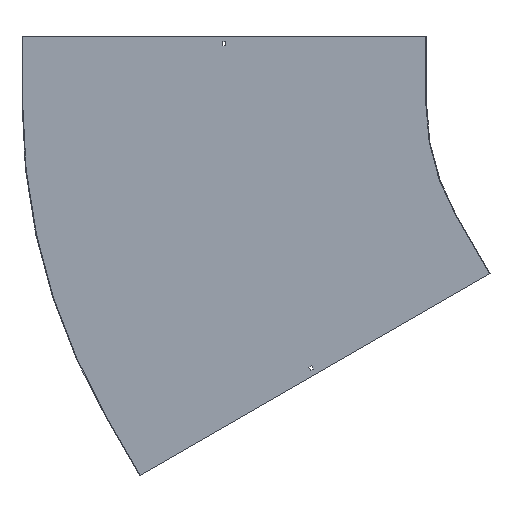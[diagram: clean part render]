
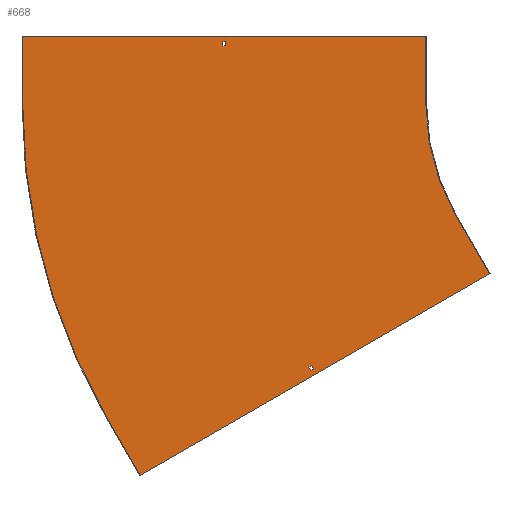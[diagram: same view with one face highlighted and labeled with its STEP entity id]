
A CAD part, front view. The second image highlights one B-rep face of the part: STEP entity #668.
In plain terms, the highlighted planar face has unit normal (0, -1, 0).
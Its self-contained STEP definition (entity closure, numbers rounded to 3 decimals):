
#8 = EDGE_CURVE ( 'NONE', #687, #69, #457, .T. ) ;
#10 = DIRECTION ( 'NONE',  ( 0., -1., 0. ) ) ;
#12 = DIRECTION ( 'NONE',  ( 0.5, 0., -0.866 ) ) ;
#22 = ORIENTED_EDGE ( 'NONE', *, *, #254, .F. ) ;
#27 = VERTEX_POINT ( 'NONE', #506 ) ;
#36 = CARTESIAN_POINT ( 'NONE',  ( 0., -1.5, 0. ) ) ;
#41 = EDGE_CURVE ( 'NONE', #711, #850, #854, .T. ) ;
#45 = LINE ( 'NONE', #643, #68 ) ;
#47 = ORIENTED_EDGE ( 'NONE', *, *, #778, .F. ) ;
#62 = DIRECTION ( 'NONE',  ( -0.5, 0., 0.866 ) ) ;
#68 = VECTOR ( 'NONE', #182, 1000. ) ;
#69 = VERTEX_POINT ( 'NONE', #155 ) ;
#73 = CARTESIAN_POINT ( 'NONE',  ( 0., -1.5, 0. ) ) ;
#91 = CARTESIAN_POINT ( 'NONE',  ( -761.039, -1.5, -588.342 ) ) ;
#102 = FACE_BOUND ( 'NONE', #565, .T. ) ;
#112 = CARTESIAN_POINT ( 'NONE',  ( -1137.436, -1.5, -829.904 ) ) ;
#114 = VECTOR ( 'NONE', #12, 1000. ) ;
#120 = LINE ( 'NONE', #446, #230 ) ;
#127 = VECTOR ( 'NONE', #215, 1000. ) ;
#141 = DIRECTION ( 'NONE',  ( 0., 1., 0. ) ) ;
#142 = VERTEX_POINT ( 'NONE', #818 ) ;
#146 = VECTOR ( 'NONE', #377, 1000. ) ;
#155 = CARTESIAN_POINT ( 'NONE',  ( -1212.436, -1.5, -700. ) ) ;
#161 = CIRCLE ( 'NONE', #212, 500. ) ;
#165 = ORIENTED_EDGE ( 'NONE', *, *, #413, .T. ) ;
#170 = VERTEX_POINT ( 'NONE', #801 ) ;
#173 = ORIENTED_EDGE ( 'NONE', *, *, #8, .F. ) ;
#174 = AXIS2_PLACEMENT_3D ( 'NONE', #36, #835, #237 ) ;
#178 = VECTOR ( 'NONE', #357, 1000. ) ;
#180 = VERTEX_POINT ( 'NONE', #91 ) ;
#182 = DIRECTION ( 'NONE',  ( 0.866, 0., 0.5 ) ) ;
#190 = EDGE_CURVE ( 'NONE', #170, #576, #539, .T. ) ;
#195 = EDGE_CURVE ( 'NONE', #383, #281, #613, .T. ) ;
#202 = CARTESIAN_POINT ( 'NONE',  ( 64.5, -1.5, -111.717 ) ) ;
#212 = AXIS2_PLACEMENT_3D ( 'NONE', #733, #10, #407 ) ;
#213 = EDGE_CURVE ( 'NONE', #180, #857, #672, .T. ) ;
#215 = DIRECTION ( 'NONE',  ( 0.5, 0., -0.866 ) ) ;
#220 = EDGE_CURVE ( 'NONE', #69, #170, #773, .T. ) ;
#230 = VECTOR ( 'NONE', #382, 1000. ) ;
#231 = ORIENTED_EDGE ( 'NONE', *, *, #817, .F. ) ;
#234 = DIRECTION ( 'NONE',  ( -1., 0., 0. ) ) ;
#237 = DIRECTION ( 'NONE',  ( 0., 0., -1. ) ) ;
#248 = CARTESIAN_POINT ( 'NONE',  ( -953.25, -1.5, 129. ) ) ;
#254 = EDGE_CURVE ( 'NONE', #850, #180, #268, .T. ) ;
#265 = CARTESIAN_POINT ( 'NONE',  ( -1137.436, -1.5, -829.904 ) ) ;
#268 = LINE ( 'NONE', #202, #790 ) ;
#281 = VERTEX_POINT ( 'NONE', #549 ) ;
#301 = FACE_BOUND ( 'NONE', #776, .T. ) ;
#304 = CARTESIAN_POINT ( 'NONE',  ( 0., -1.5, 129. ) ) ;
#305 = AXIS2_PLACEMENT_3D ( 'NONE', #73, #141, #676 ) ;
#322 = DIRECTION ( 'NONE',  ( -0.5, 0., 0.866 ) ) ;
#338 = CARTESIAN_POINT ( 'NONE',  ( -825.539, -1.5, -476.625 ) ) ;
#344 = EDGE_CURVE ( 'NONE', #281, #687, #763, .T. ) ;
#347 = LINE ( 'NONE', #603, #788 ) ;
#350 = ORIENTED_EDGE ( 'NONE', *, *, #374, .T. ) ;
#356 = ORIENTED_EDGE ( 'NONE', *, *, #41, .F. ) ;
#357 = DIRECTION ( 'NONE',  ( 0., 0., -1. ) ) ;
#374 = EDGE_CURVE ( 'NONE', #445, #442, #427, .T. ) ;
#377 = DIRECTION ( 'NONE',  ( -0.866, 0., -0.5 ) ) ;
#382 = DIRECTION ( 'NONE',  ( 0., 0., 1. ) ) ;
#383 = VERTEX_POINT ( 'NONE', #694 ) ;
#384 = CARTESIAN_POINT ( 'NONE',  ( -755.41, -1.5, -585.092 ) ) ;
#388 = VECTOR ( 'NONE', #322, 1000. ) ;
#402 = DIRECTION ( 'NONE',  ( 0., 0., 1. ) ) ;
#407 = DIRECTION ( 'NONE',  ( 0., 0., -1. ) ) ;
#409 = CARTESIAN_POINT ( 'NONE',  ( -1400., -1.5, 0. ) ) ;
#412 = CARTESIAN_POINT ( 'NONE',  ( 0., -1.5, 138. ) ) ;
#413 = EDGE_CURVE ( 'NONE', #442, #508, #120, .T. ) ;
#415 = VERTEX_POINT ( 'NONE', #849 ) ;
#427 = LINE ( 'NONE', #304, #689 ) ;
#442 = VERTEX_POINT ( 'NONE', #248 ) ;
#444 = CARTESIAN_POINT ( 'NONE',  ( -750.91, -1.5, -592.887 ) ) ;
#445 = VERTEX_POINT ( 'NONE', #724 ) ;
#446 = CARTESIAN_POINT ( 'NONE',  ( -953.25, -1.5, 0. ) ) ;
#457 = LINE ( 'NONE', #112, #492 ) ;
#462 = LINE ( 'NONE', #536, #652 ) ;
#474 = CARTESIAN_POINT ( 'NONE',  ( -1400., -1.5, 150. ) ) ;
#482 = ORIENTED_EDGE ( 'NONE', *, *, #190, .F. ) ;
#492 = VECTOR ( 'NONE', #62, 1000. ) ;
#505 = CARTESIAN_POINT ( 'NONE',  ( -356.714, -1.5, -379.154 ) ) ;
#506 = CARTESIAN_POINT ( 'NONE',  ( -500., -1.5, 150. ) ) ;
#508 = VERTEX_POINT ( 'NONE', #809 ) ;
#511 = EDGE_CURVE ( 'NONE', #576, #27, #462, .T. ) ;
#520 = CARTESIAN_POINT ( 'NONE',  ( -756.539, -1.5, -596.137 ) ) ;
#536 = CARTESIAN_POINT ( 'NONE',  ( -1401.5, -1.5, 150. ) ) ;
#539 = LINE ( 'NONE', #409, #728 ) ;
#546 = EDGE_CURVE ( 'NONE', #508, #142, #548, .T. ) ;
#548 = LINE ( 'NONE', #412, #797 ) ;
#549 = CARTESIAN_POINT ( 'NONE',  ( -358.013, -1.5, -379.904 ) ) ;
#562 = ORIENTED_EDGE ( 'NONE', *, *, #195, .F. ) ;
#565 = EDGE_LOOP ( 'NONE', ( #356, #231, #822, #22 ) ) ;
#566 = EDGE_CURVE ( 'NONE', #415, #383, #161, .T. ) ;
#576 = VERTEX_POINT ( 'NONE', #474 ) ;
#601 = EDGE_CURVE ( 'NONE', #142, #445, #347, .T. ) ;
#603 = CARTESIAN_POINT ( 'NONE',  ( -946.75, -1.5, 0. ) ) ;
#613 = LINE ( 'NONE', #734, #127 ) ;
#618 = ORIENTED_EDGE ( 'NONE', *, *, #546, .T. ) ;
#642 = ORIENTED_EDGE ( 'NONE', *, *, #220, .F. ) ;
#643 = CARTESIAN_POINT ( 'NONE',  ( 69., -1.5, -119.512 ) ) ;
#652 = VECTOR ( 'NONE', #727, 1000. ) ;
#668 = ADVANCED_FACE ( 'NONE', ( #102, #816, #301 ), #749, .T. ) ;
#672 = LINE ( 'NONE', #338, #114 ) ;
#676 = DIRECTION ( 'NONE',  ( 0., 0., -1. ) ) ;
#687 = VERTEX_POINT ( 'NONE', #265 ) ;
#689 = VECTOR ( 'NONE', #234, 1000. ) ;
#694 = CARTESIAN_POINT ( 'NONE',  ( -433.013, -1.5, -250. ) ) ;
#706 = ORIENTED_EDGE ( 'NONE', *, *, #566, .F. ) ;
#711 = VERTEX_POINT ( 'NONE', #444 ) ;
#713 = ORIENTED_EDGE ( 'NONE', *, *, #601, .T. ) ;
#724 = CARTESIAN_POINT ( 'NONE',  ( -946.75, -1.5, 129. ) ) ;
#727 = DIRECTION ( 'NONE',  ( 1., 0., 0. ) ) ;
#728 = VECTOR ( 'NONE', #402, 1000. ) ;
#733 = CARTESIAN_POINT ( 'NONE',  ( 0., -1.5, 0. ) ) ;
#734 = CARTESIAN_POINT ( 'NONE',  ( -433.013, -1.5, -250. ) ) ;
#749 = PLANE ( 'NONE',  #174 ) ;
#759 = CARTESIAN_POINT ( 'NONE',  ( -500., -1.5, 150. ) ) ;
#763 = LINE ( 'NONE', #505, #146 ) ;
#765 = EDGE_LOOP ( 'NONE', ( #830, #482, #642, #173, #812, #562, #706, #47 ) ) ;
#773 = CIRCLE ( 'NONE', #305, 1400. ) ;
#776 = EDGE_LOOP ( 'NONE', ( #618, #713, #350, #165 ) ) ;
#778 = EDGE_CURVE ( 'NONE', #27, #415, #813, .T. ) ;
#788 = VECTOR ( 'NONE', #798, 1000. ) ;
#790 = VECTOR ( 'NONE', #811, 1000. ) ;
#792 = CARTESIAN_POINT ( 'NONE',  ( -819.91, -1.5, -473.375 ) ) ;
#797 = VECTOR ( 'NONE', #805, 1000. ) ;
#798 = DIRECTION ( 'NONE',  ( 0., 0., -1. ) ) ;
#801 = CARTESIAN_POINT ( 'NONE',  ( -1400., -1.5, 0. ) ) ;
#805 = DIRECTION ( 'NONE',  ( 1., 0., 0. ) ) ;
#809 = CARTESIAN_POINT ( 'NONE',  ( -953.25, -1.5, 138. ) ) ;
#811 = DIRECTION ( 'NONE',  ( -0.866, 0., -0.5 ) ) ;
#812 = ORIENTED_EDGE ( 'NONE', *, *, #344, .F. ) ;
#813 = LINE ( 'NONE', #759, #178 ) ;
#816 = FACE_OUTER_BOUND ( 'NONE', #765, .T. ) ;
#817 = EDGE_CURVE ( 'NONE', #857, #711, #45, .T. ) ;
#818 = CARTESIAN_POINT ( 'NONE',  ( -946.75, -1.5, 138. ) ) ;
#822 = ORIENTED_EDGE ( 'NONE', *, *, #213, .F. ) ;
#830 = ORIENTED_EDGE ( 'NONE', *, *, #511, .F. ) ;
#835 = DIRECTION ( 'NONE',  ( 0., -1., 0. ) ) ;
#849 = CARTESIAN_POINT ( 'NONE',  ( -500., -1.5, 0. ) ) ;
#850 = VERTEX_POINT ( 'NONE', #384 ) ;
#854 = LINE ( 'NONE', #792, #388 ) ;
#857 = VERTEX_POINT ( 'NONE', #520 ) ;
